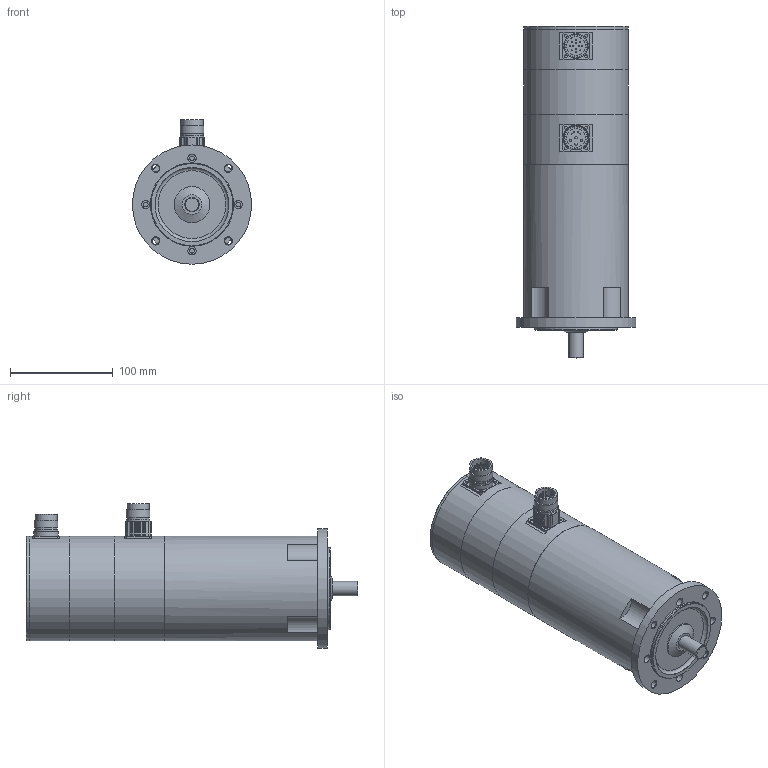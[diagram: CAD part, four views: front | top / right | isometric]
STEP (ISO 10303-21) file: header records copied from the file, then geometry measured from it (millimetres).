
FILE_DESCRIPTION(/* description */ (''),/* implementation_level */ '2;1');
FILE_NAME(/* name */ 'ksy_3612e_md_rx',/* time_stamp */ '2007-03-19T16:29:49+01:00',/* author */ (''),/* organization */ (''),/* preprocessor_version */ 'ST-DEVELOPER v8',/* originating_system */ 'UNIGRAPHICS SOLUTIONS - UNIGRAPHICS 18.0',/* authorisation */ '');
FILE_SCHEMA (('AUTOMOTIVE_DESIGN { 1 2 10303 214 0 1 1 1 }'));
Length unit declared in the file: millimetre
Products named in the file (12): 014261_0; 014260_0; 064265_0; 064317_0; 064316_0; 113062_0; 06330201_0; DIN3760_org_A15x30x7_0; Rotor_SY 36.. E_0; Gehaeuse_SY 36.. E_0; 113050_0; KSY364_E-MD-RD_0
Assembly tree (11 placements, depth 2):
  KSY364_E-MD-RD_0
    113050_0
    Gehaeuse_SY 36.. E_0
    Rotor_SY 36.. E_0
    DIN3760_org_A15x30x7_0
    06330201_0
    113062_0
    064316_0
    064317_0
    064265_0
    014260_0
    014261_0
Bounding box: 116 x 323 x 140.5 mm (x, y, z)
Volume: 2048845 mm3; surface area: 244748.4 mm2
Topology: 11 solids, 11 shells, 294 faces, 714 edges, 457 vertices
Faces by surface type: cylinder 159, plane 83, cone 23, sphere 20, torus 9
Full cylindrical faces by diameter (mm): 1 x16, 2 x4, 2.7 x8, 3.5 x4, 4.5 x4, 6 x4, 7 x4, 8 x4, 13.52 x1, 13.92 x1, 14 x1, 15 x2, 15.3 x1, 18 x2, 20 x4, 21 x2, 21.5 x2, 23 x4, 24 x1, 27 x1, 29 x1, 30 x3, 35 x2, 42 x1, 72 x1, 74 x1, 79.3 x2, 80 x2, 81 x4, 102 x5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
Entity records: 7683 total; most frequent: DIRECTION 1452, CARTESIAN_POINT 1169, ORIENTED_EDGE 950, AXIS2_PLACEMENT_3D 671, EDGE_LOOP 522, EDGE_CURVE 475, VERTEX_POINT 388, CIRCLE 365
